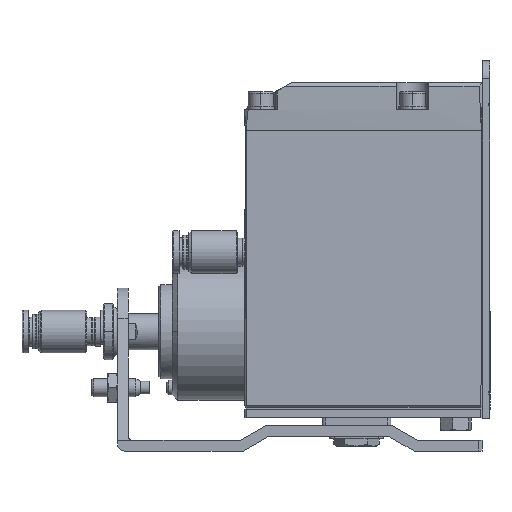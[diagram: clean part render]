
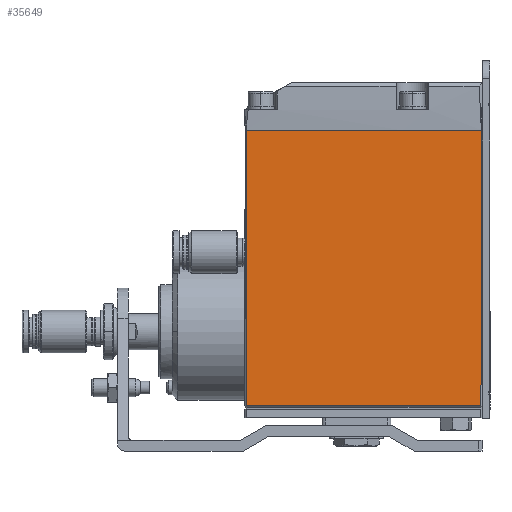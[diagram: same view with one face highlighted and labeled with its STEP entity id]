
A CAD part, left-side view. The second image highlights one B-rep face of the part: STEP entity #35649.
In plain terms, the highlighted planar face has unit normal (-1, 0, 0).
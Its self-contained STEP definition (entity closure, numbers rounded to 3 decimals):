
#799 = VECTOR ( 'NONE', #46061, 1000. ) ;
#2722 = CARTESIAN_POINT ( 'NONE',  ( 0., -6., -7.1 ) ) ;
#2764 = EDGE_CURVE ( 'NONE', #21033, #25054, #41108, .T. ) ;
#6245 = VECTOR ( 'NONE', #49462, 1000. ) ;
#6693 = AXIS2_PLACEMENT_3D ( 'NONE', #2722, #31100, #6731 ) ;
#6731 = DIRECTION ( 'NONE',  ( 0., 0., 1. ) ) ;
#7906 = VECTOR ( 'NONE', #21425, 1000. ) ;
#8051 = EDGE_CURVE ( 'NONE', #32373, #21033, #17101, .T. ) ;
#9599 = ORIENTED_EDGE ( 'NONE', *, *, #9671, .F. ) ;
#9671 = EDGE_CURVE ( 'NONE', #49946, #25054, #34676, .T. ) ;
#10280 = PLANE ( 'NONE',  #6693 ) ;
#12721 = EDGE_CURVE ( 'NONE', #49946, #32373, #38761, .T. ) ;
#17080 = CARTESIAN_POINT ( 'NONE',  ( 0.408, 65.592, 76.815 ) ) ;
#17101 = LINE ( 'NONE', #47013, #6245 ) ;
#18020 = FACE_OUTER_BOUND ( 'NONE', #29146, .T. ) ;
#21033 = VERTEX_POINT ( 'NONE', #17080 ) ;
#21425 = DIRECTION ( 'NONE',  ( 0., 0., 1. ) ) ;
#23959 = ORIENTED_EDGE ( 'NONE', *, *, #12721, .T. ) ;
#24098 = VECTOR ( 'NONE', #41323, 1000. ) ;
#24663 = CARTESIAN_POINT ( 'NONE',  ( 0., 0.5, 38.5 ) ) ;
#25054 = VERTEX_POINT ( 'NONE', #34931 ) ;
#26616 = CARTESIAN_POINT ( 'NONE',  ( 0., 0.5, 0.5 ) ) ;
#29146 = EDGE_LOOP ( 'NONE', ( #9599, #23959, #41945, #32304 ) ) ;
#31100 = DIRECTION ( 'NONE',  ( -1., 0., 0. ) ) ;
#32304 = ORIENTED_EDGE ( 'NONE', *, *, #2764, .T. ) ;
#32373 = VERTEX_POINT ( 'NONE', #49798 ) ;
#34676 = LINE ( 'NONE', #40788, #24098 ) ;
#34931 = CARTESIAN_POINT ( 'NONE',  ( 0., 65.5, 0.5 ) ) ;
#35649 = ADVANCED_FACE ( 'NONE', ( #18020 ), #10280, .T. ) ;
#38761 = LINE ( 'NONE', #24663, #7906 ) ;
#40788 = CARTESIAN_POINT ( 'NONE',  ( 0., 33., 0.5 ) ) ;
#41108 = LINE ( 'NONE', #45878, #799 ) ;
#41323 = DIRECTION ( 'NONE',  ( 0., 1., 0. ) ) ;
#41945 = ORIENTED_EDGE ( 'NONE', *, *, #8051, .T. ) ;
#45878 = CARTESIAN_POINT ( 'NONE',  ( 0., 65.5, 38.5 ) ) ;
#46061 = DIRECTION ( 'NONE',  ( 0., 0., -1. ) ) ;
#47013 = CARTESIAN_POINT ( 'NONE',  ( 0., 33., 76.5 ) ) ;
#49462 = DIRECTION ( 'NONE',  ( 0., 1., 0. ) ) ;
#49798 = CARTESIAN_POINT ( 'NONE',  ( 0.408, 0.408, 76.815 ) ) ;
#49946 = VERTEX_POINT ( 'NONE', #26616 ) ;
